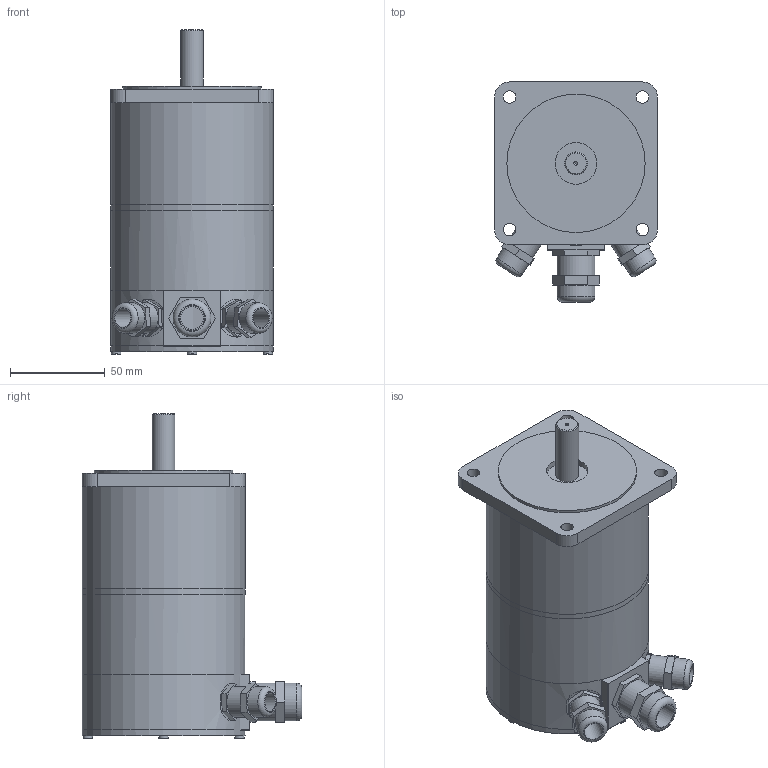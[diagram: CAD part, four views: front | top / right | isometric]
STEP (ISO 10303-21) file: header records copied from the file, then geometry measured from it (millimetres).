
FILE_DESCRIPTION((''),'2;1');
FILE_NAME('C:\Users\Reinhard\Documents\Inventor\Testschrittmotor\SM88\SM88.1-BE50-KV_Konturvereinfachung_1.stp','2012-11-11T20:51:55',('Reinhard'),(''),'Autodesk Inventor 2012','Autodesk Inventor 2012','');
FILE_SCHEMA(('CONFIG_CONTROL_DESIGN'));
Length unit declared in the file: millimetre
Products named in the file (1): SM88
Bounding box: 86 x 115.99 x 171.4 mm (x, y, z)
Volume: 187681.5 mm3; surface area: 116658.9 mm2
Topology: 2 solids, 3 shells, 171 faces, 385 edges, 252 vertices
Faces by surface type: plane 106, cylinder 57, cone 3, torus 3, sphere 2
Full cylindrical faces by diameter (mm): 2 x1, 5 x4, 6.6 x4, 10 x2, 12 x4, 13 x2, 15 x1, 16 x4, 18.376 x1, 20 x3, 22 x1, 73 x1, 78 x2, 82 x2, 86 x4
Entity records: 4680 total; most frequent: CARTESIAN_POINT 936, DIRECTION 784, ORIENTED_EDGE 664, EDGE_CURVE 332, AXIS2_PLACEMENT_3D 298, EDGE_LOOP 261, VERTEX_POINT 241, VECTOR 188
